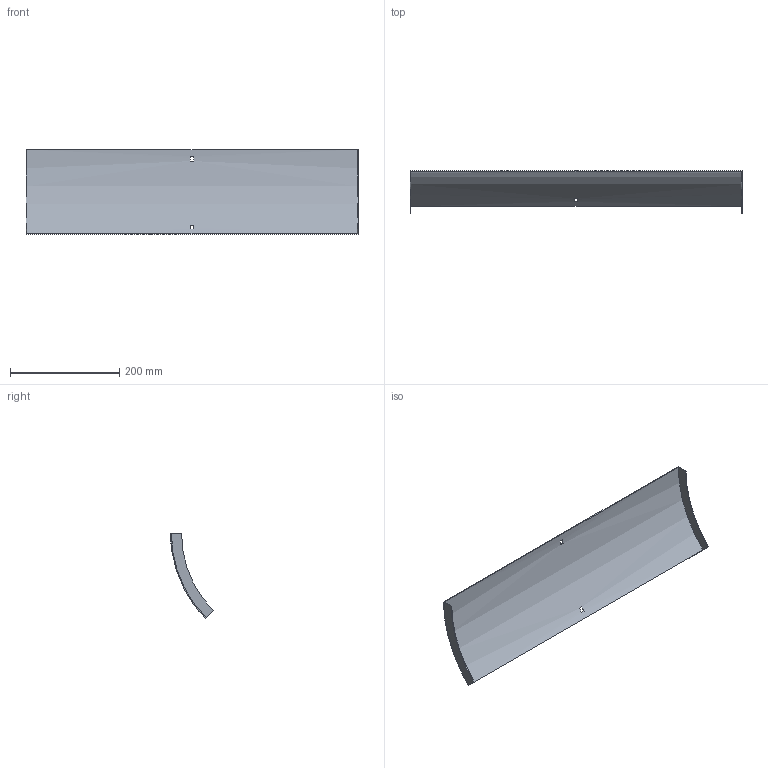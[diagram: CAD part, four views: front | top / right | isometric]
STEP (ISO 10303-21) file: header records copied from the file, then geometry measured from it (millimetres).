
FILE_DESCRIPTION (( 'STEP AP214' ), '1' );
FILE_NAME ('34N1J600.step', '2025-02-21T09:14:36', ( '' ), ( '' ), 'SwSTEP 2.0', 'SolidWorks 2023', '' );
FILE_SCHEMA (( 'AUTOMOTIVE_DESIGN' ));
Length unit declared in the file: millimetre
Products named in the file (1): 34N1J600
Bounding box: 607 x 78.29 x 154.86 mm (x, y, z)
Volume: 164973.2 mm3; surface area: 222460.2 mm2
Topology: 1 solids, 1 shells, 18 faces, 48 edges, 32 vertices
Faces by surface type: plane 14, cylinder 4
Entity records: 599 total; most frequent: DIRECTION 102, CARTESIAN_POINT 99, ORIENTED_EDGE 96, EDGE_CURVE 48, AXIS2_PLACEMENT_3D 35, VECTOR 32, LINE 32, VERTEX_POINT 32
